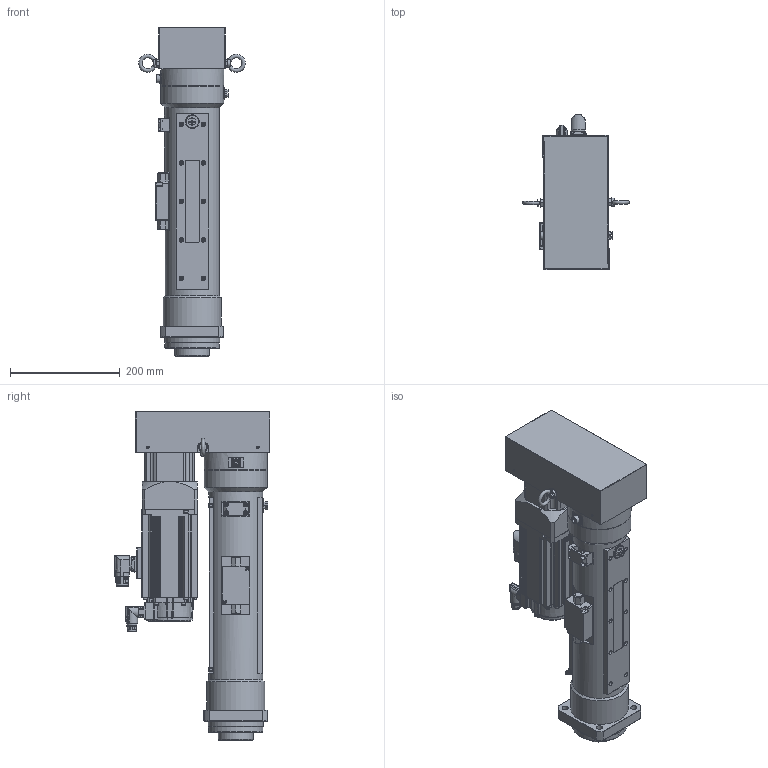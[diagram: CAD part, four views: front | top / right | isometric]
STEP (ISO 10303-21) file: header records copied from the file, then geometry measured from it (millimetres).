
FILE_DESCRIPTION(/* description */ (''),/* implementation_level */ '2;1');
FILE_NAME(/* name */ 'Z:\07.Product\01.Design\3D\1.P-All\OAICS-P\0000.Assembly\OACIS-P020,P030-250-200-A6V400.stp',/* time_stamp */ '2023-09-21T09:05:08+09:00',/* author */ ('magic'),/* organization */ (''),/* preprocessor_version */ 'ST-DEVELOPER v17',/* originating_system */ 'Autodesk Inventor 2019',/* authorisation */ '');
FILE_SCHEMA (('AUTOMOTIVE_DESIGN { 1 0 10303 214 3 1 1 }'));
Products named in the file (1): 303025010001_OACIS-P030-250-200-A5_v10.22_Shrinkwrap_1
Bounding box: 193.88 x 283.59 x 598 mm (x, y, z)
Volume: 6514623.1 mm3; surface area: 900520.9 mm2
Topology: 2 solids, 2 shells, 2698 faces, 7177 edges, 4745 vertices
Faces by surface type: plane 1276, cylinder 878, cone 252, bspline 156, torus 76, sphere 60
Full cylindrical faces by diameter (mm): 1 x6, 1.25 x12, 2.232 x6, 2.8 x1, 3.242 x37, 4.134 x4, 4.5 x33, 4.917 x19, 5 x2, 5.5 x9, 5.8 x2, 6 x8, 6.5 x2, 6.6 x10, 6.647 x8, 6.75 x4, 6.8 x1, 7 x12, 7.2 x2, 7.24 x2, 7.8 x2, 8 x45, 8.376 x8, 8.4 x1, 8.7 x1, 9 x12, 9.188 x1, 11 x4, 13.4 x1, 14 x9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
Entity records: 99235 total; most frequent: CARTESIAN_POINT 28449, DIRECTION 14387, ORIENTED_EDGE 14140, EDGE_CURVE 7070, AXIS2_PLACEMENT_3D 5364, VERTEX_POINT 4745, LINE 3659, VECTOR 3659
